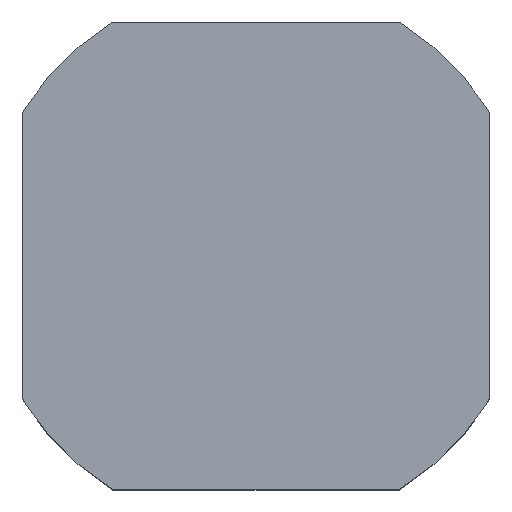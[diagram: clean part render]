
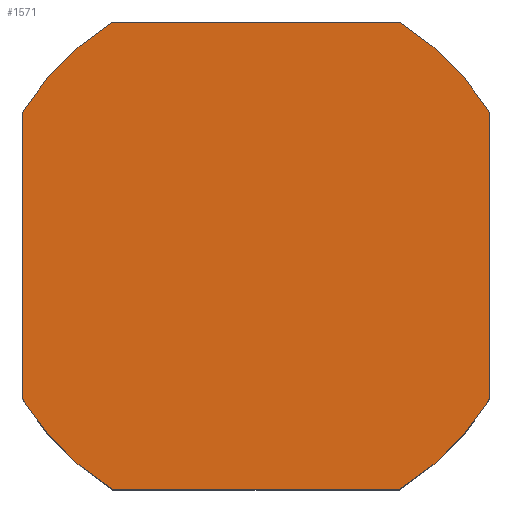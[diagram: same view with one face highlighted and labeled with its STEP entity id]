
A CAD part, top view. The second image highlights one B-rep face of the part: STEP entity #1571.
In plain terms, the highlighted planar face has unit normal (0, 0, 1).
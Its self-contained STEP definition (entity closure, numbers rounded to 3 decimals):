
#132=LINE($,#2540,#262);
#135=LINE($,#2548,#265);
#138=LINE($,#2556,#268);
#141=LINE($,#2564,#271);
#262=VECTOR($,#2119,33.693);
#265=VECTOR($,#2128,33.693);
#268=VECTOR($,#2137,33.693);
#271=VECTOR($,#2146,33.693);
#345=PLANE($,#1723);
#481=FACE_OUTER_BOUND($,#617,.T.);
#617=EDGE_LOOP($,(#1355,#1356,#1357,#1358,#1359,#1360,#1361,#1362));
#669=CIRCLE($,#1713,32.25);
#670=CIRCLE($,#1716,32.25);
#671=CIRCLE($,#1719,32.25);
#672=CIRCLE($,#1722,32.25);
#800=VERTEX_POINT($,#2537);
#801=VERTEX_POINT($,#2539);
#802=VERTEX_POINT($,#2543);
#803=VERTEX_POINT($,#2547);
#804=VERTEX_POINT($,#2551);
#805=VERTEX_POINT($,#2555);
#806=VERTEX_POINT($,#2559);
#807=VERTEX_POINT($,#2563);
#978=EDGE_CURVE($,#801,#800,#132,.T.);
#980=EDGE_CURVE($,#802,#801,#669,.T.);
#982=EDGE_CURVE($,#803,#802,#135,.T.);
#984=EDGE_CURVE($,#804,#803,#670,.T.);
#986=EDGE_CURVE($,#805,#804,#138,.T.);
#988=EDGE_CURVE($,#806,#805,#671,.T.);
#990=EDGE_CURVE($,#807,#806,#141,.T.);
#992=EDGE_CURVE($,#800,#807,#672,.T.);
#1355=ORIENTED_EDGE($,*,*,#992,.T.);
#1356=ORIENTED_EDGE($,*,*,#990,.T.);
#1357=ORIENTED_EDGE($,*,*,#988,.T.);
#1358=ORIENTED_EDGE($,*,*,#986,.T.);
#1359=ORIENTED_EDGE($,*,*,#984,.T.);
#1360=ORIENTED_EDGE($,*,*,#982,.T.);
#1361=ORIENTED_EDGE($,*,*,#980,.T.);
#1362=ORIENTED_EDGE($,*,*,#978,.T.);
#1571=ADVANCED_FACE($,(#481),#345,.T.);
#1713=AXIS2_PLACEMENT_3D($,#2544,#2123,#2124);
#1716=AXIS2_PLACEMENT_3D($,#2552,#2132,#2133);
#1719=AXIS2_PLACEMENT_3D($,#2560,#2141,#2142);
#1722=AXIS2_PLACEMENT_3D($,#2567,#2150,#2151);
#1723=AXIS2_PLACEMENT_3D($,#2568,#2152,#2153);
#2119=DIRECTION($,(0.,1.,0.));
#2123=DIRECTION('center_axis',(0.,0.,1.));
#2124=DIRECTION('ref_axis',(-0.522,0.853,0.));
#2128=DIRECTION($,(1.,0.,0.));
#2132=DIRECTION('center_axis',(0.,0.,1.));
#2133=DIRECTION('ref_axis',(0.853,0.522,0.));
#2137=DIRECTION($,(0.,-1.,0.));
#2141=DIRECTION('center_axis',(0.,0.,1.));
#2142=DIRECTION('ref_axis',(0.522,-0.853,0.));
#2146=DIRECTION($,(-1.,0.,0.));
#2150=DIRECTION('center_axis',(0.,0.,1.));
#2151=DIRECTION('ref_axis',(-0.853,-0.522,0.));
#2152=DIRECTION('center_axis',(0.,0.,1.));
#2153=DIRECTION('ref_axis',(1.,0.,0.));
#2537=CARTESIAN_POINT('',(27.5,16.847,18.));
#2539=CARTESIAN_POINT('',(27.5,-16.847,18.));
#2540=CARTESIAN_POINT($,(27.5,16.847,18.));
#2543=CARTESIAN_POINT('',(16.847,-27.5,18.));
#2544=CARTESIAN_POINT('Origin',(0.,0.,18.));
#2547=CARTESIAN_POINT('',(-16.847,-27.5,18.));
#2548=CARTESIAN_POINT($,(16.847,-27.5,18.));
#2551=CARTESIAN_POINT('',(-27.5,-16.847,18.));
#2552=CARTESIAN_POINT('Origin',(0.,0.,18.));
#2555=CARTESIAN_POINT('',(-27.5,16.847,18.));
#2556=CARTESIAN_POINT($,(-27.5,-16.847,18.));
#2559=CARTESIAN_POINT('',(-16.847,27.5,18.));
#2560=CARTESIAN_POINT('Origin',(0.,0.,18.));
#2563=CARTESIAN_POINT('',(16.847,27.5,18.));
#2564=CARTESIAN_POINT($,(-16.847,27.5,18.));
#2567=CARTESIAN_POINT('Origin',(0.,0.,18.));
#2568=CARTESIAN_POINT('Origin',(0.,0.,18.));
